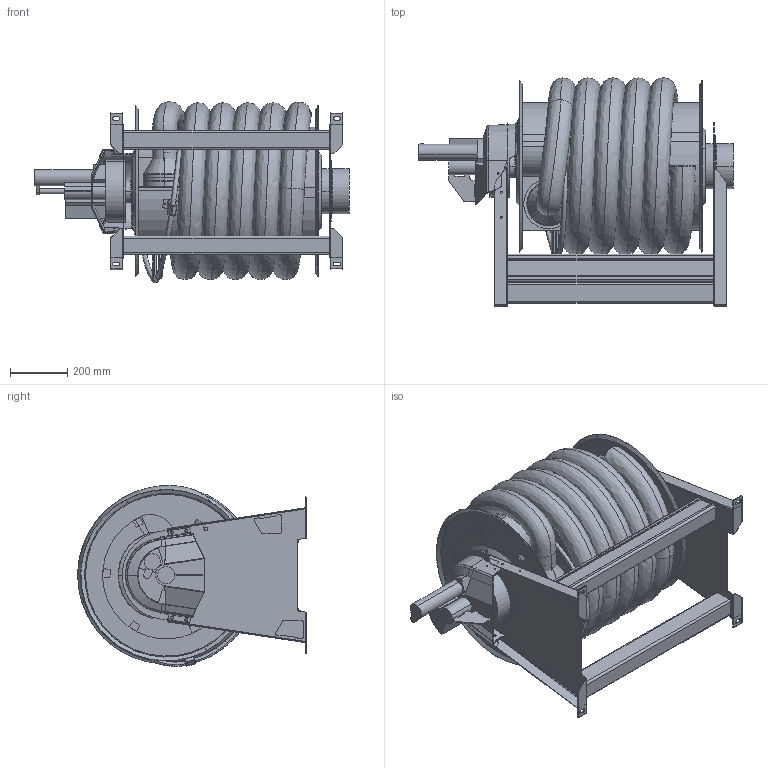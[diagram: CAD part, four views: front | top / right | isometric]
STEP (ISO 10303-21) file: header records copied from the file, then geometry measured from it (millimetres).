
FILE_DESCRIPTION((''),'2;1');
FILE_NAME('ASEM_65_75_10','2022-04-20T15:04:32',('Tomas Bellgran'),(''),'CREO PARAMETRIC BY PTC INC, 2018260','CREO PARAMETRIC BY PTC INC, 2018260','');
FILE_SCHEMA(('AUTOMOTIVE_DESIGN { 1 0 10303 214 1 1 1 1 }'));
Products named in the file (27): 110534; 110536; 110801; 111736; 111735; 110540; 112850; 110528; 110591; 110651; G_ASE_DUMMY; 124129; G_ASL-EVO_150CON_BRACKET; GUIDE_75; 110660; 124299; ASEM_DRUM_65_75; AG_HOSE_75_87-65-10; 143740; 143700; 143550; 144299; 143702; 144230; 111192_NEW; 104504_L; ASEM_65_75_10
Assembly tree (30 placements, depth 4):
  ASEM_65_75_10
    110540
      110534
      110536
      110801  x2
      111736
      111735
    112850  x2
    ASEM_DRUM_65_75
      110528  x2
      110591
      110651
      G_ASL-EVO_150CON_BRACKET
        G_ASE_DUMMY
        124129
      GUIDE_75
      110660  x2
      124299
    AG_HOSE_75_87-65-10
    104504_L
      143740
      143702
        143700
        143550
        144299
      144230
      111192_NEW
Bounding box: 1102 x 800.55 x 634.96 mm (x, y, z)
Volume: 164969466.7 mm3; surface area: 9452134.9 mm2
Topology: 25 solids, 28 shells, 1062 faces, 2493 edges, 1494 vertices
Faces by surface type: plane 544, cylinder 327, bspline 87, torus 72, cone 32
Entity records: 54242 total; most frequent: CARTESIAN_POINT 18763, DIRECTION 4670, ORIENTED_EDGE 4102, EDGE_CURVE 2055, AXIS2_PLACEMENT_3D 1669, PRESENTATION_STYLE_ASSIGNMENT 1639, STYLED_ITEM 1638, PROPERTY_DEFINITION 1432
